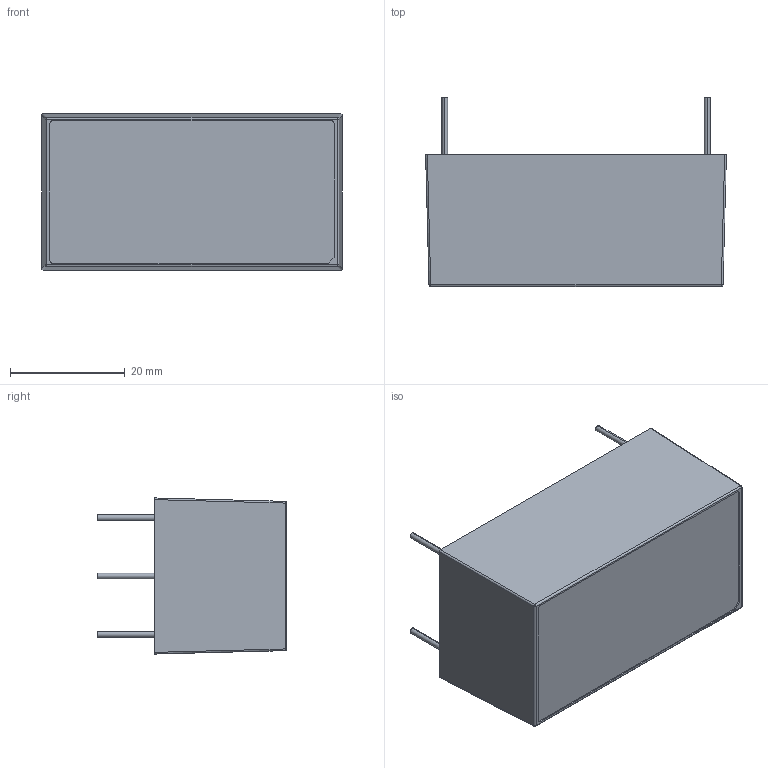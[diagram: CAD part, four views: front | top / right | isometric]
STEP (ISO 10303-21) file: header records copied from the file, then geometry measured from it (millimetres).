
FILE_DESCRIPTION (( 'STEP AP203' ), '1' );
FILE_NAME ('ECL10-E.STEP', '2010-02-24T08:24:36', ( 'SuperXP' ), ( 'mychat' ), 'SwSTEP 2.0', 'SolidWorks 2008', '' );
FILE_SCHEMA (( 'CONFIG_CONTROL_DESIGN' ));
Length unit declared in the file: millimetre
Products named in the file (5): ECL10-2 BASE(M-G003-00-M)G5213710010_預設; ECL10-2 CASE(M-G002-00-M)G5115210012_預設; ECL10-E; ECL10-補灌膠孔_預設; 灌膠PIN_預設
Assembly tree (7 placements, depth 2):
  ECL10-E
    ECL10-補灌膠孔_預設
    灌膠PIN_預設  x4
    ECL10-2 BASE(M-G003-00-M)G5213710010_預設
    ECL10-2 CASE(M-G002-00-M)G5115210012_預設
Bounding box: 52.4 x 33 x 27.2 mm (x, y, z)
Volume: 12915.7 mm3; surface area: 14861.7 mm2
Topology: 7 solids, 7 shells, 86 faces, 196 edges, 124 vertices
Faces by surface type: plane 45, cylinder 36, sphere 4, bspline 1
Entity records: 3671 total; most frequent: CARTESIAN_POINT 1309, DIRECTION 386, ORIENTED_EDGE 348, EDGE_CURVE 174, AXIS2_PLACEMENT_3D 137, VERTEX_POINT 112, VECTOR 112, LINE 112
